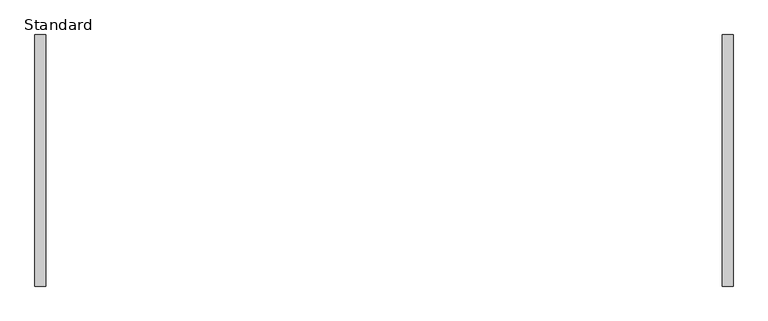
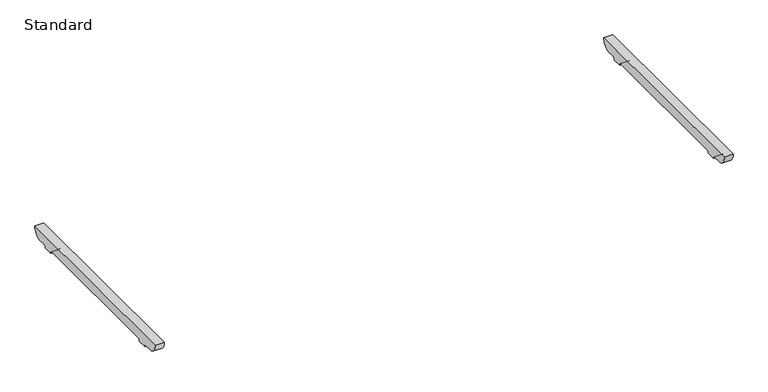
"""IFC4 building model written with IfcOpenShell, lengths in millimetres: furniture geometry, BDG_BossDesign_Tbls_AgentTables4Legs_Nested : Standard."""

from ifc_helpers import new_model, si_unit, point, frame, frame_2d, origin, place, context, project, spatial, polyline, circle_curve, trimmed, segment, composite_curve, outline, extrude, source, transform, mapped, element, save


def standard_7387f7f3(model_context):
    return source(origin(), model_context, "Body", "SweptSolid", [
        extrude(outline(composite_curve([segment(polyline([(480.5450184, 672.0), (442.7000122, 672.0)]), True, "CONTINUOUS"), segment(trimmed(circle_curve(frame_2d((442.7000122, 660.0)), 12.0), [point((442.7000122, 672.0))], [point((430.7000122, 660.0))], True, "CARTESIAN"), True, "CONTINUOUS"), segment(polyline([(430.7000122, 660.0), (385.7000122, 660.0)]), True, "CONTINUOUS"), segment(trimmed(circle_curve(frame_2d((373.7000122, 660.0)), 12.0), [point((385.7000122, 660.0))], [point((373.7000122, 672.0))], True, "CARTESIAN"), True, "CONTINUOUS"), segment(polyline([(373.7000122, 672.0), (-373.7000122, 672.0)]), True, "CONTINUOUS"), segment(trimmed(circle_curve(frame_2d((-373.7000122, 660.0)), 12.0), [point((-373.7000122, 672.0))], [point((-385.7000122, 660.0))], True, "CARTESIAN"), True, "CONTINUOUS"), segment(polyline([(-385.7000122, 660.0), (-430.7000122, 660.0)]), True, "CONTINUOUS"), segment(trimmed(circle_curve(frame_2d((-442.7000122, 660.0)), 12.0), [point((-430.7000122, 660.0))], [point((-442.7000122, 672.0))], True, "CARTESIAN"), True, "CONTINUOUS"), segment(polyline([(-442.7000122, 672.0), (-480.5450184, 672.0)]), True, "CONTINUOUS"), segment(trimmed(circle_curve(frame_2d((-478.2220439, 716.5514119)), 44.6119324), [point((-480.5450184, 672.0))], [point((-522.5, 722.0))], False, "CARTESIAN"), True, "CONTINUOUS"), segment(polyline([(-522.5, 722.0), (522.5, 722.0)]), True, "CONTINUOUS"), segment(trimmed(circle_curve(frame_2d((478.2220439, 716.5514119)), 44.6119324), [point((522.5, 722.0))], [point((480.5450184, 672.0))], False, "CARTESIAN"), True, "CONTINUOUS")], self_intersect=False)), frame((1405.0, 0.0, 0.0), z_axis=(1.0, 0.0, 0.0), x_axis=(0.0, 1.0, 0.0)), (0.0, 0.0, 1.0), 45.0),
        extrude(outline(composite_curve([segment(polyline([(480.5450184, 672.0), (442.7000122, 672.0)]), True, "CONTINUOUS"), segment(trimmed(circle_curve(frame_2d((442.7000122, 660.0)), 12.0), [point((442.7000122, 672.0))], [point((430.7000122, 660.0))], True, "CARTESIAN"), True, "CONTINUOUS"), segment(polyline([(430.7000122, 660.0), (385.7000122, 660.0)]), True, "CONTINUOUS"), segment(trimmed(circle_curve(frame_2d((373.7000122, 660.0)), 12.0), [point((385.7000122, 660.0))], [point((373.7000122, 672.0))], True, "CARTESIAN"), True, "CONTINUOUS"), segment(polyline([(373.7000122, 672.0), (-373.7000122, 672.0)]), True, "CONTINUOUS"), segment(trimmed(circle_curve(frame_2d((-373.7000122, 660.0)), 12.0), [point((-373.7000122, 672.0))], [point((-385.7000122, 660.0))], True, "CARTESIAN"), True, "CONTINUOUS"), segment(polyline([(-385.7000122, 660.0), (-430.7000122, 660.0)]), True, "CONTINUOUS"), segment(trimmed(circle_curve(frame_2d((-442.7000122, 660.0)), 12.0), [point((-430.7000122, 660.0))], [point((-442.7000122, 672.0))], True, "CARTESIAN"), True, "CONTINUOUS"), segment(polyline([(-442.7000122, 672.0), (-480.5450184, 672.0)]), True, "CONTINUOUS"), segment(trimmed(circle_curve(frame_2d((-478.2220439, 716.5514119)), 44.6119324), [point((-480.5450184, 672.0))], [point((-522.5, 722.0))], False, "CARTESIAN"), True, "CONTINUOUS"), segment(polyline([(-522.5, 722.0), (522.5, 722.0)]), True, "CONTINUOUS"), segment(trimmed(circle_curve(frame_2d((478.2220439, 716.5514119)), 44.6119324), [point((522.5, 722.0))], [point((480.5450184, 672.0))], False, "CARTESIAN"), True, "CONTINUOUS")], self_intersect=False)), frame((-1450.0, 0.0, 0.0), z_axis=(1.0, 0.0, 0.0), x_axis=(0.0, 1.0, 0.0)), (0.0, 0.0, 1.0), 45.0),
    ])


if __name__ == "__main__":
    model = new_model("IFC4")
    model_context = context("Model", 3, world=origin())
    ifc_project = project(units=[si_unit("LENGTHUNIT", "METRE", prefix="MILLI")], contexts=[model_context])
    site = spatial("IfcSite", under=ifc_project)
    building = spatial("IfcBuilding", under=site)
    placement = place(None, origin())
    standard_shape = standard_7387f7f3(model_context)
    element("IfcFurniture", 1, ObjectType="BDG_BossDesign_Tbls_AgentTables4Legs_Nested : Standard", at=placement, inside=building, context=model_context, shape_type="MappedRepresentation", body=[
        mapped(standard_shape, transform((0.0, 0.0, 0.0), x_axis=(1.0, 0.0, 0.0), y_axis=(0.0, 1.0, 0.0), z_axis=(0.0, 0.0, 1.0))),
    ])
    save(model, "model.ifc")
